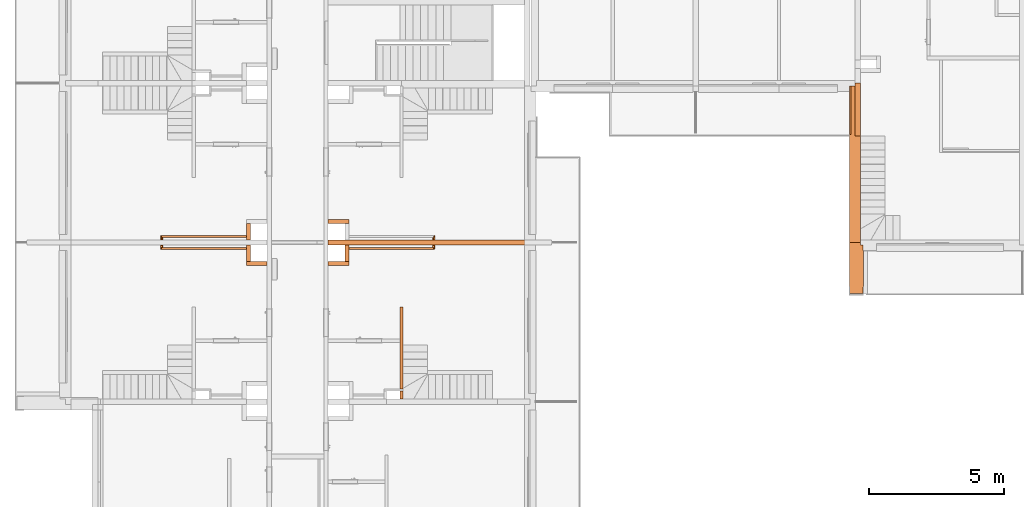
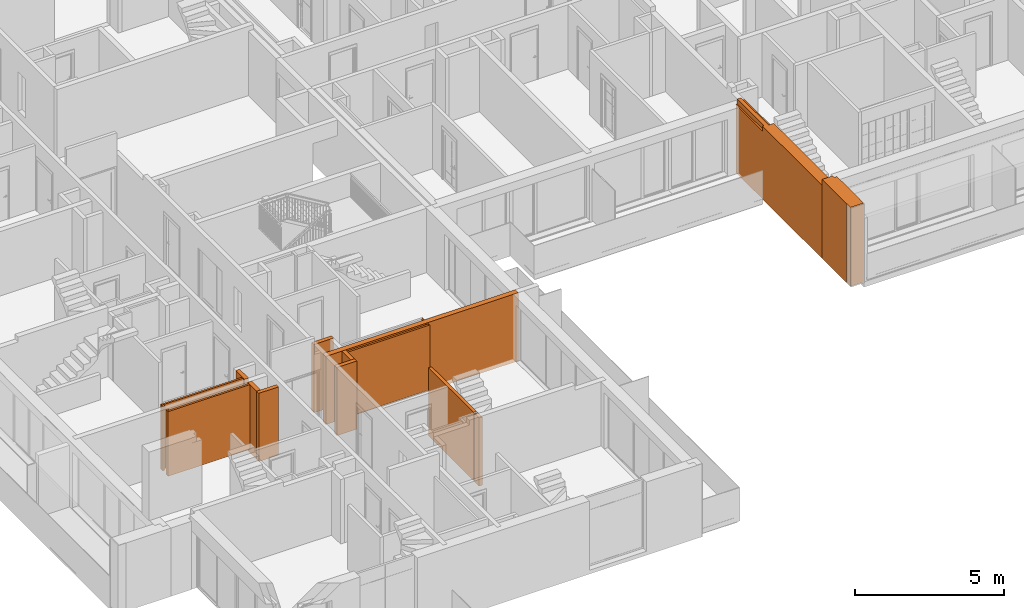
# One storey, part 46 of 61: 17 proxies, 1 opening.
"""IFC2X3 building model written with IfcOpenShell, lengths in millimetres."""

from ifc_helpers import new_model, entity, si_unit, converted_unit, derived_unit, money_unit, direction, frame, origin_with_axes, origin_2d_with_axis, place, context, subcontext, project, spatial, rectangle, extrude, faceted_brep, material, material_list, type_object, element, save


model = new_model("IFC2X3")

# Units and contexts
model_context = context("Model", 3, precision=0.01, world=origin_with_axes(), true_north=direction((0.34421633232, 0.938890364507)))
body_context = subcontext(model_context, "Body", "Model", "MODEL_VIEW")
ifc_project = project(units=[si_unit("LENGTHUNIT", "METRE", prefix="MILLI"), si_unit("AREAUNIT", "SQUARE_METRE"), si_unit("VOLUMEUNIT", "CUBIC_METRE"), converted_unit("PLANEANGLEUNIT", "DEGREE", entity("IfcPlaneAngleMeasure", 0.0174532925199), si_unit("PLANEANGLEUNIT", "RADIAN"), dimensions=[0, 0, 0, 0, 0, 0, 0]), si_unit("SOLIDANGLEUNIT", "STERADIAN"), money_unit("USD"), converted_unit("TIMEUNIT", "Year", entity("IfcTimeMeasure", 31556926.0), si_unit("TIMEUNIT", "SECOND"), dimensions=[0, 0, 1, 0, 0, 0, 0]), si_unit("MASSUNIT", "GRAM", prefix="KILO"), si_unit("THERMODYNAMICTEMPERATUREUNIT", "DEGREE_CELSIUS"), si_unit("LUMINOUSINTENSITYUNIT", "LUMEN"), si_unit("ENERGYUNIT", "JOULE", prefix="MEGA"), derived_unit("THERMALCONDUCTANCEUNIT", [(si_unit("POWERUNIT", "WATT"), 1), (si_unit("LENGTHUNIT", "METRE"), -1), (si_unit("THERMODYNAMICTEMPERATUREUNIT", "KELVIN"), -1)]), derived_unit("SPECIFICHEATCAPACITYUNIT", [(si_unit("ENERGYUNIT", "JOULE"), 1), (si_unit("MASSUNIT", "GRAM", prefix="KILO"), -1), (si_unit("THERMODYNAMICTEMPERATUREUNIT", "KELVIN"), -1)]), derived_unit("MASSDENSITYUNIT", [(si_unit("MASSUNIT", "GRAM", prefix="KILO"), 1), (si_unit("VOLUMEUNIT", "CUBIC_METRE"), -1)])], contexts=[model_context])

# Site, building, storey
site_placement = place(None, origin_with_axes())
site = spatial("IfcSite", under=ifc_project, at=site_placement, Name="USTRONIE MORSKIE", CompositionType="ELEMENT")
building_placement = place(site_placement, origin_with_axes())
building = spatial("IfcBuilding", under=site, at=building_placement, Name="Budynek", CompositionType="ELEMENT")
storey_placement = place(building_placement, frame((0.0, 0.0, 13000.0), z_axis=(0.0, 0.0, 1.0), x_axis=(1.0, 0.0, 0.0)))
storey = spatial("IfcBuildingStorey", under=building, at=storey_placement, Name="PIĘTRO 4", CompositionType="ELEMENT", Elevation=13000.0)

# Proxies
ifc_material_1 = material(Name="Bloczki silikatowe")
building_element_proxy_type_1 = type_object("IfcBuildingElementProxyType", Name="Bloczki silikatowe 120", PredefinedType="NOTDEFINED")
proxy_1_placement = place(storey_placement, frame((362417.920919, 715101.199036, -160.0), z_axis=(0.0, 0.0, 1.0), x_axis=(0.0, 1.0, 0.0)))
element("IfcBuildingElementProxy", 1, at=proxy_1_placement, inside=storey, type_object=building_element_proxy_type_1, material=ifc_material_1, Name="SW-04", context=body_context, shape_type="Brep", body=[
    faceted_brep([(400.000444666, -60.0, 2800.0), (400.000444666, 60.0, 2800.0), (100.0, 60.0, 2800.0), (100.0, -60.0, 2800.0), (400.000444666, -60.0, 0.0), (400.000444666, 60.0, 0.0), (100.0, 60.0, 0.0), (100.0, -60.0, 0.0)], [[[0, 1, 2, 3]], [[1, 0, 4, 5]], [[1, 5, 6, 2]], [[7, 3, 2, 6]], [[4, 0, 3, 7]], [[5, 4, 7, 6]]]),
    faceted_brep([(480.000444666, -60.0, 2800.0), (3499.99837346, -60.0, 2800.0), (3499.99837346, 60.0, 2800.0), (480.000444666, 60.0, 2800.0), (480.000444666, -60.0, 0.0), (3499.99837346, -60.0, 0.0), (3499.99837346, 60.0, 0.0), (480.000444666, 60.0, 0.0)], [[[0, 1, 2, 3]], [[4, 5, 1, 0]], [[2, 1, 5, 6]], [[3, 2, 6, 7]], [[4, 0, 3, 7]], [[7, 6, 5, 4]]]),
])
ifc_material_2 = material(Name="Beton konstrukcyjny B25")
ifc_material_3 = material(Name="Wełna ELEW")
ifc_material_4 = material(Name="Tynk zewnętrzny")
ifc_material_list_1 = material_list([ifc_material_2, ifc_material_3, ifc_material_4])
building_element_proxy_type_2 = type_object("IfcBuildingElementProxyType", Name="20+20 410", PredefinedType="NOTDEFINED")
proxy_2_placement = place(storey_placement, frame((379317.920919, 726901.199036, -160.0), z_axis=(0.0, 0.0, 1.0), x_axis=(0.0, -1.0, 0.0)))
element("IfcBuildingElementProxy", 2, at=proxy_2_placement, inside=storey, type_object=building_element_proxy_type_2, material=ifc_material_list_1, Name="SZ-01", context=body_context, shape_type="Brep", body=[
    faceted_brep([(0.0, -100.0000184, 2800.0), (0.0, 100.0, 2800.0), (0.0, 100.0, 0.0), (0.0, -100.0, 0.0), (1949.98304594, 100.0, 2800.0), (1949.98304594, -100.000083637, 2800.0), (1949.98304594, 100.0, 3000.0), (5900.0, 100.0, 3000.0), (5900.0, 100.0, 0.0), (5900.0, -100.0, 0.0), (5900.0, -100.0, 3000.0), (1949.98304594, -100.000083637, 3000.0)], [[[0, 1, 2, 3]], [[4, 1, 0, 5]], [[4, 6, 7, 8, 2, 1]], [[9, 3, 2, 8]], [[5, 0, 3, 9, 10, 11]], [[11, 6, 4, 5]], [[6, 11, 10, 7]], [[8, 7, 10, 9]]]),
    faceted_brep([(100.0, -300.0, 2800.00000171), (100.0, -249.999904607, 2800.00000171), (100.0, -249.999904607, 3000.00000171), (100.0, -100.0, 3000.0), (100.0, -100.0, 0.0), (100.0, -300.0, 0.0), (1900.00067055, -300.0, 2800.00000171), (1900.00067055, -250.000165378, 2800.00000171), (1900.00067055, -250.000165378, 3000.00000171), (1900.00067055, -300.0, 3000.00000171), (5900.0, -300.0, 3000.0), (5900.0, -100.0, 3000.0), (5900.0, -100.0, 0.0), (300.0, -299.758252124, 0.0), (300.0, -300.0, 0.0), (5900.0, -300.0, 0.0), (567.123743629, -300.0, 0.0), (300.0, -300.0, 110.0), (567.123743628, -300.0, 110.0), (300.0, -299.758252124, 110.0)], [[[0, 1, 2, 3, 4, 5]], [[1, 0, 6, 7]], [[8, 2, 1, 7]], [[8, 9, 10, 11, 3, 2]], [[4, 3, 11, 12]], [[13, 14, 5, 4, 12, 15, 16]], [[6, 0, 5, 14, 17, 18, 16, 15, 10, 9]], [[9, 8, 7, 6]], [[12, 11, 10, 15]], [[13, 19, 17, 14]], [[16, 18, 19, 13]], [[18, 17, 19]]]),
    faceted_brep([(300.0, -310.0, 2800.00000171), (300.0, -300.0, 2800.00000171), (300.0, -300.0, 110.0), (300.0, -310.0, 110.0), (1900.00067055, -300.0, 2800.00000171), (1900.00067055, -310.0, 2800.00000171), (1900.00067055, -300.0, 3000.00000171), (5900.0, -300.0, 3000.0), (5900.0, -300.0, 0.0), (567.123743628, -300.0, 0.0), (567.123743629, -300.0, 110.0), (1900.00067759, -301.206258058, 110.0), (1900.00067759, -310.0, 110.0), (1900.00067759, -310.0, 0.0), (5900.0, -310.0, 0.0), (5900.0, -310.0, 3000.0), (1900.00067055, -310.0, 3000.00000171), (1900.00067759, -301.206258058, 0.0)], [[[0, 1, 2, 3]], [[4, 1, 0, 5]], [[4, 6, 7, 8, 9, 10, 2, 1]], [[3, 2, 10, 11, 12]], [[5, 0, 3, 12, 13, 14, 15, 16]], [[16, 6, 4, 5]], [[6, 16, 15, 7]], [[8, 7, 15, 14]], [[17, 9, 8, 14, 13]], [[11, 10, 9, 17]], [[12, 11, 17, 13]]]),
])
ifc_material_5 = material(Name="Płyta GK")
ifc_material_6 = material(Name="-Pustka powietrzna")
ifc_material_list_2 = material_list([ifc_material_5, ifc_material_5, ifc_material_6])
building_element_proxy_type_3 = type_object("IfcBuildingElementProxyType", Name="330-SD GK 2-warstwy 75", PredefinedType="NOTDEFINED")
proxy_3_placement = place(storey_placement, frame((353517.920919, 721001.20928, -180.0), z_axis=(0.0, 0.0, 1.0), x_axis=(0.0, 1.0, 0.0)))
element("IfcBuildingElementProxy", 3, at=proxy_3_placement, inside=storey, type_object=building_element_proxy_type_3, material=ifc_material_list_2, Name="Ściana-009", context=body_context, shape_type="Brep", body=[
    faceted_brep([(99.9897562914, 12.5, 165.0), (242.489756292, 12.5, 165.0), (242.489756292, 12.5, 2820.0), (99.9897562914, 12.5, 2819.99999891), (242.489756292, 25.0, 165.0), (99.9897562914, 25.0, 165.0), (242.489756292, 25.0, 2820.0), (99.9897562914, 25.0, 2819.99999891)], [[[0, 1, 2, 3]], [[4, 1, 0, 5]], [[1, 4, 6, 2]], [[6, 7, 3, 2]], [[5, 0, 3, 7]], [[4, 5, 7, 6]]]),
    faceted_brep([(99.9897562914, 0.0, 165.0), (229.989756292, 0.0, 165.0), (229.989756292, 0.0, 2820.0), (99.9897562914, 0.0, 2819.99999892), (229.989756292, 12.5, 165.0), (99.9897562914, 12.5, 165.0), (229.989756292, 12.5, 2820.0), (99.9897562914, 12.5, 2819.99999891)], [[[0, 1, 2, 3]], [[4, 1, 0, 5]], [[1, 4, 6, 2]], [[6, 7, 3, 2]], [[5, 0, 3, 7]], [[4, 5, 7, 6]]]),
    faceted_brep([(99.9897562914, -50.0, 180.0), (179.989756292, -50.0, 180.0), (179.989756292, -50.0, 2820.0), (99.9897562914, -50.0, 2819.99999893), (179.989756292, 0.0, 180.0), (99.9897562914, 0.0, 180.0), (179.989756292, 0.0, 2820.0), (99.9897562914, 0.0, 2819.99999892)], [[[0, 1, 2, 3]], [[4, 1, 0, 5]], [[1, 4, 6, 2]], [[6, 7, 3, 2]], [[5, 0, 3, 7]], [[4, 5, 7, 6]]]),
])
proxy_4_placement = place(storey_placement, frame((356817.920919, 720771.199036, -180.0), z_axis=(0.0, 0.0, 1.0), x_axis=(-1.0, 0.0, 0.0)))
element("IfcBuildingElementProxy", 4, at=proxy_4_placement, inside=storey, type_object=building_element_proxy_type_3, material=ifc_material_list_2, Name="Ściana-009", context=body_context, shape_type="Brep", body=[
    faceted_brep([(150.0, 25.0, 165.0), (150.0, 12.5, 165.0), (150.0, 12.5, 2820.0), (150.0, 25.0, 2820.0), (3325.0, 12.5, 165.0), (3325.0, 25.0, 165.0), (3325.0, 12.5, 2820.0), (3325.0, 25.0, 2820.0)], [[[0, 1, 2, 3]], [[4, 1, 0, 5]], [[1, 4, 6, 2]], [[7, 3, 2, 6]], [[5, 0, 3, 7]], [[4, 5, 7, 6]]]),
    faceted_brep([(150.0, 12.5, 165.0), (150.0, 0.0, 165.0), (150.0, 0.0, 2820.0), (150.0, 12.5, 2820.0), (3312.5, 0.0, 165.0), (3312.5, 12.5, 165.0), (3312.5, 0.0, 2820.0), (3312.5, 12.5, 2820.0)], [[[0, 1, 2, 3]], [[4, 1, 0, 5]], [[1, 4, 6, 2]], [[7, 3, 2, 6]], [[5, 0, 3, 7]], [[4, 5, 7, 6]]]),
    faceted_brep([(150.0, 0.0, 180.0), (150.0, -50.0, 180.0), (150.0, -50.0, 2820.0), (150.0, 0.0, 2820.0), (3300.0, -50.0, 180.0), (3300.0, 0.0, 180.0), (3300.0, -50.0, 2820.0), (3300.0, 0.0, 2820.0)], [[[0, 1, 2, 3]], [[4, 1, 0, 5]], [[1, 4, 6, 2]], [[7, 3, 2, 6]], [[5, 0, 3, 7]], [[4, 5, 7, 6]]]),
])
ifc_material_list_3 = material_list([ifc_material_6, ifc_material_5, ifc_material_5])
proxy_5_placement = place(storey_placement, frame((353517.920919, 721001.20928, -180.0), z_axis=(0.0, 0.0, 1.0), x_axis=(0.0, -1.0, 0.0)))
element("IfcBuildingElementProxy", 5, at=proxy_5_placement, inside=storey, type_object=building_element_proxy_type_3, material=ifc_material_list_3, Name="Ściana-009", context=body_context, shape_type="Brep", body=[
    faceted_brep([(180.010243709, 50.0, 180.0), (100.010243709, 50.0, 180.0), (100.010243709, 50.0, 2819.99999893), (180.010243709, 50.0, 2820.0), (100.010243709, 0.0, 180.0), (180.010243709, 0.0, 180.0), (100.010243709, 0.0, 2819.99999892), (180.010243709, 0.0, 2820.0)], [[[0, 1, 2, 3]], [[4, 1, 0, 5]], [[1, 4, 6, 2]], [[3, 2, 6, 7]], [[5, 0, 3, 7]], [[4, 5, 7, 6]]]),
    faceted_brep([(230.010243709, 0.0, 165.0), (100.010243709, 0.0, 165.0), (100.010243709, 0.0, 2819.99999892), (230.010243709, 0.0, 2820.0), (100.010243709, -12.5, 165.0), (230.010243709, -12.5, 165.0), (100.010243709, -12.5, 2819.99999891), (230.010243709, -12.5, 2820.0)], [[[0, 1, 2, 3]], [[4, 1, 0, 5]], [[1, 4, 6, 2]], [[3, 2, 6, 7]], [[5, 0, 3, 7]], [[4, 5, 7, 6]]]),
    faceted_brep([(242.510243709, -12.5, 165.0), (100.010243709, -12.5, 165.0), (100.010243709, -12.5, 2819.99999891), (242.510243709, -12.5, 2820.0), (100.010243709, -25.0, 165.0), (242.510243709, -25.0, 165.0), (100.010243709, -25.0, 2819.99999891), (242.510243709, -25.0, 2820.0)], [[[0, 1, 2, 3]], [[4, 1, 0, 5]], [[1, 4, 6, 2]], [[3, 2, 6, 7]], [[5, 0, 3, 7]], [[4, 5, 7, 6]]]),
])
proxy_6_placement = place(storey_placement, frame((356817.920919, 721231.199036, -180.0), z_axis=(0.0, 0.0, 1.0), x_axis=(-1.0, 0.0, 0.0)))
element("IfcBuildingElementProxy", 6, at=proxy_6_placement, inside=storey, type_object=building_element_proxy_type_3, material=ifc_material_list_3, Name="Ściana-009", context=body_context, shape_type="Brep", body=[
    faceted_brep([(150.0, 50.0, 180.0), (150.0, 0.0, 180.0), (150.0, 0.0, 2820.0), (150.0, 50.0, 2820.0), (3300.0, 0.0, 180.0), (3300.0, 50.0, 180.0), (3300.0, 0.0, 2820.0), (3300.0, 50.0, 2820.0)], [[[0, 1, 2, 3]], [[4, 1, 0, 5]], [[1, 4, 6, 2]], [[7, 3, 2, 6]], [[5, 0, 3, 7]], [[4, 5, 7, 6]]]),
    faceted_brep([(150.0, 0.0, 165.0), (150.0, -12.5, 165.0), (150.0, -12.5, 2820.0), (150.0, 0.0, 2820.0), (3312.5, -12.5, 165.0), (3312.5, 0.0, 165.0), (3312.5, -12.5, 2820.0), (3312.5, 0.0, 2820.0)], [[[0, 1, 2, 3]], [[4, 1, 0, 5]], [[1, 4, 6, 2]], [[7, 3, 2, 6]], [[5, 0, 3, 7]], [[4, 5, 7, 6]]]),
    faceted_brep([(150.0, -12.5, 165.0), (150.0, -25.0, 165.0), (150.0, -25.0, 2820.0), (150.0, -12.5, 2820.0), (3325.0, -25.0, 165.0), (3325.0, -12.5, 165.0), (3325.0, -25.0, 2820.0), (3325.0, -12.5, 2820.0)], [[[0, 1, 2, 3]], [[4, 1, 0, 5]], [[1, 4, 6, 2]], [[7, 3, 2, 6]], [[5, 0, 3, 7]], [[4, 5, 7, 6]]]),
])
proxy_7_placement = place(storey_placement, frame((360317.920919, 720771.199036, -180.0), z_axis=(0.0, 0.0, 1.0), x_axis=(1.0, 0.0, 0.0)))
element("IfcBuildingElementProxy", 7, at=proxy_7_placement, inside=storey, type_object=building_element_proxy_type_3, material=ifc_material_list_3, Name="Ściana-009", context=body_context, shape_type="Brep", body=[
    faceted_brep([(3300.0, 0.0, 180.0), (3300.0, 50.0, 180.0), (3300.0, 50.0, 2820.0), (3300.0, 0.0, 2820.0), (150.0, 50.0, 180.0), (150.0, 0.0, 180.0), (150.0, 50.0, 2820.0), (150.0, 0.0, 2820.0)], [[[0, 1, 2, 3]], [[4, 1, 0, 5]], [[1, 4, 6, 2]], [[2, 6, 7, 3]], [[5, 0, 3, 7]], [[4, 5, 7, 6]]]),
    faceted_brep([(3312.5, -12.5, 165.0), (3312.5, 0.0, 165.0), (3312.5, 0.0, 2820.0), (3312.5, -12.5, 2820.0), (150.0, 0.0, 165.0), (150.0, -12.5, 165.0), (150.0, 0.0, 2820.0), (150.0, -12.5, 2820.0)], [[[0, 1, 2, 3]], [[4, 1, 0, 5]], [[1, 4, 6, 2]], [[2, 6, 7, 3]], [[5, 0, 3, 7]], [[4, 5, 7, 6]]]),
    faceted_brep([(3325.0, -25.0, 165.0), (3325.0, -12.5, 165.0), (3325.0, -12.5, 2820.0), (3325.0, -25.0, 2820.0), (150.0, -12.5, 165.0), (150.0, -25.0, 165.0), (150.0, -12.5, 2820.0), (150.0, -25.0, 2820.0)], [[[0, 1, 2, 3]], [[4, 1, 0, 5]], [[1, 4, 6, 2]], [[2, 6, 7, 3]], [[5, 0, 3, 7]], [[4, 5, 7, 6]]]),
])
proxy_8_placement = place(storey_placement, frame((363617.920919, 721001.221157, -180.0), z_axis=(0.0, 0.0, 1.0), x_axis=(0.0, -1.0, 0.0)))
element("IfcBuildingElementProxy", 8, at=proxy_8_placement, inside=storey, type_object=building_element_proxy_type_3, material=ifc_material_list_2, Name="Ściana-009", context=body_context, shape_type="Brep", body=[
    faceted_brep([(242.522120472, 25.0, 165.0), (100.0, 25.0, 165.0), (100.0, 25.0, 2820.0), (242.522120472, 25.0, 2820.0), (100.0, 12.5, 165.0), (242.522120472, 12.5, 165.0), (100.0, 12.5, 2820.0), (242.522120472, 12.5, 2820.0)], [[[0, 1, 2, 3]], [[4, 1, 0, 5]], [[1, 4, 6, 2]], [[3, 2, 6, 7]], [[5, 0, 3, 7]], [[4, 5, 7, 6]]]),
    faceted_brep([(230.022120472, 12.5, 165.0), (100.0, 12.5, 165.0), (100.0, 12.5, 2820.0), (230.022120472, 12.5, 2820.0), (100.0, 0.0, 165.0), (230.022120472, 0.0, 165.0), (100.0, 0.0, 2820.0), (230.022120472, 0.0, 2820.0)], [[[0, 1, 2, 3]], [[4, 1, 0, 5]], [[1, 4, 6, 2]], [[3, 2, 6, 7]], [[5, 0, 3, 7]], [[4, 5, 7, 6]]]),
    faceted_brep([(180.022120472, 0.0, 180.0), (100.0, 0.0, 180.0), (100.0, 0.0, 2820.0), (180.022120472, 0.0, 2820.0), (100.0, -50.0, 180.0), (180.022120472, -50.0, 180.0), (100.0, -50.0, 2820.0), (180.022120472, -50.0, 2820.0)], [[[0, 1, 2, 3]], [[4, 1, 0, 5]], [[1, 4, 6, 2]], [[3, 2, 6, 7]], [[5, 0, 3, 7]], [[4, 5, 7, 6]]]),
])
proxy_9_placement = place(storey_placement, frame((363617.920919, 721001.221157, -180.0), z_axis=(0.0, 0.0, 1.0), x_axis=(0.0, 1.0, 0.0)))
element("IfcBuildingElementProxy", 9, at=proxy_9_placement, inside=storey, type_object=building_element_proxy_type_3, material=ifc_material_list_3, Name="Ściana-009", context=body_context, shape_type="Brep", body=[
    faceted_brep([(100.0, 0.0, 180.0), (179.977879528, 0.0, 180.0), (179.977879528, 0.0, 2820.0), (100.0, 0.0, 2820.0), (179.977879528, 50.0, 180.0), (100.0, 50.0, 180.0), (179.977879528, 50.0, 2820.0), (100.0, 50.0, 2820.0)], [[[0, 1, 2, 3]], [[4, 1, 0, 5]], [[1, 4, 6, 2]], [[6, 7, 3, 2]], [[5, 0, 3, 7]], [[4, 5, 7, 6]]]),
    faceted_brep([(100.0, -12.5, 165.0), (229.977879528, -12.5, 165.0), (229.977879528, -12.5, 2820.0), (100.0, -12.5, 2820.0), (229.977879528, 0.0, 165.0), (100.0, 0.0, 165.0), (229.977879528, 0.0, 2820.0), (100.0, 0.0, 2820.0)], [[[0, 1, 2, 3]], [[4, 1, 0, 5]], [[1, 4, 6, 2]], [[6, 7, 3, 2]], [[5, 0, 3, 7]], [[4, 5, 7, 6]]]),
    faceted_brep([(100.0, -25.0, 165.0), (242.477879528, -25.0, 165.0), (242.477879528, -25.0, 2820.0), (100.0, -25.0, 2820.0), (242.477879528, -12.5, 165.0), (100.0, -12.5, 165.0), (242.477879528, -12.5, 2820.0), (100.0, -12.5, 2820.0)], [[[0, 1, 2, 3]], [[4, 1, 0, 5]], [[1, 4, 6, 2]], [[6, 7, 3, 2]], [[5, 0, 3, 7]], [[4, 5, 7, 6]]]),
])
building_element_proxy_type_4 = type_object("IfcBuildingElementProxyType", Name="Bloczki silikatowe 150", PredefinedType="NOTDEFINED")
proxy_10_placement = place(storey_placement, frame((356817.920919, 721001.221157, -160.0), z_axis=(0.0, 0.0, 1.0), x_axis=(0.0, 1.0, 0.0)))
element("IfcBuildingElementProxy", 10, at=proxy_10_placement, inside=storey, type_object=building_element_proxy_type_4, material=ifc_material_1, Name="SW-03", context=body_context, shape_type="Brep", body=[
    faceted_brep([(699.977879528, 150.0, 2800.0), (99.977879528, 150.0, 2799.99999975), (99.977879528, 0.0, 2799.99999979), (699.977879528, 0.0, 2800.0), (699.977879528, 150.0, 0.0), (99.977879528, 150.0, 0.0), (99.977879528, 0.0, 0.0), (699.977879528, 0.0, 0.0)], [[[0, 1, 2, 3]], [[4, 5, 1, 0]], [[5, 6, 2, 1]], [[3, 2, 6, 7]], [[0, 3, 7, 4]], [[7, 6, 5, 4]]]),
])
proxy_11_placement = place(storey_placement, frame((356817.920919, 721001.221157, -160.0), z_axis=(0.0, 0.0, 1.0), x_axis=(0.0, -1.0, 0.0)))
element("IfcBuildingElementProxy", 11, at=proxy_11_placement, inside=storey, type_object=building_element_proxy_type_4, material=ifc_material_1, Name="SW-03", context=body_context, shape_type="Brep", body=[
    faceted_brep([(699.977879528, -150.0, 2800.0), (699.977879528, 0.0, 2800.0), (100.002078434, 0.0, 2800.0), (100.002523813, -150.0, 2800.0), (699.977879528, -150.0, 0.0), (699.977879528, 0.0, 0.0), (100.002078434, 0.0, 0.0), (100.002523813, -150.0, 0.0)], [[[0, 1, 2, 3]], [[1, 0, 4, 5]], [[1, 5, 6, 2]], [[7, 3, 2, 6]], [[4, 0, 3, 7]], [[5, 4, 7, 6]]]),
])
proxy_12_placement = place(storey_placement, frame((356817.920919, 720301.243277, -160.0), z_axis=(0.0, 0.0, 1.0), x_axis=(1.0, 0.0, 0.0)))
element("IfcBuildingElementProxy", 12, at=proxy_12_placement, inside=storey, type_object=building_element_proxy_type_4, material=ifc_material_1, Name="SW-03", context=body_context, shape_type="Brep", body=[
    faceted_brep([(620.0, -150.0, 2800.0), (620.0, 0.0, 2800.0), (-150.0, 0.0, 2800.0), (-150.0, -150.0, 2800.0), (620.0, -150.0, 0.0), (620.0, 0.0, 0.0), (-150.0, 0.0, 0.0), (-150.0, -150.0, 0.0)], [[[0, 1, 2, 3]], [[1, 0, 4, 5]], [[1, 5, 6, 2]], [[7, 3, 2, 6]], [[4, 0, 3, 7]], [[5, 4, 7, 6]]]),
])
proxy_13_placement = place(storey_placement, frame((360317.920919, 720301.243277, -160.0), z_axis=(0.0, 0.0, 1.0), x_axis=(-1.0, 0.0, 0.0)))
element("IfcBuildingElementProxy", 13, at=proxy_13_placement, inside=storey, type_object=building_element_proxy_type_4, material=ifc_material_1, Name="SW-03", context=body_context, shape_type="Brep", body=[
    faceted_brep([(620.0, 150.0, 0.0), (620.0, 0.0, 0.0), (-150.0, 0.0, 0.0), (-150.0, 150.0, 0.0), (620.0, 150.0, 2800.0), (620.0, 0.0, 2800.0), (-150.0, 0.0, 2800.0), (-150.0, 150.0, 2800.0)], [[[0, 1, 2, 3]], [[1, 0, 4, 5]], [[1, 5, 6, 2]], [[7, 3, 2, 6]], [[4, 0, 3, 7]], [[5, 4, 7, 6]]]),
])
proxy_14_placement = place(storey_placement, frame((360317.920919, 721701.199036, -160.0), z_axis=(0.0, 0.0, 1.0), x_axis=(-1.0, 0.0, 0.0)))
element("IfcBuildingElementProxy", 14, at=proxy_14_placement, inside=storey, type_object=building_element_proxy_type_4, material=ifc_material_1, Name="SW-03", context=body_context, shape_type="Brep", body=[
    faceted_brep([(620.0, -150.0, 2800.0), (620.0, 0.0, 2800.0), (-150.0, 0.0, 2800.0), (-150.0, -150.0, 2800.0), (620.0, -150.0, 0.0), (620.0, 0.0, 0.0), (-150.0, 0.0, 0.0), (-150.0, -150.0, 0.0)], [[[0, 1, 2, 3]], [[1, 0, 4, 5]], [[1, 5, 6, 2]], [[7, 3, 2, 6]], [[4, 0, 3, 7]], [[5, 4, 7, 6]]]),
])
proxy_15_placement = place(storey_placement, frame((360317.920919, 721001.221157, -160.0), z_axis=(0.0, 0.0, 1.0), x_axis=(0.0, -1.0, 0.0)))
element("IfcBuildingElementProxy", 15, at=proxy_15_placement, inside=storey, type_object=building_element_proxy_type_4, material=ifc_material_1, Name="SW-03", context=body_context, shape_type="Brep", body=[
    faceted_brep([(699.977879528, 150.0, 0.0), (699.977879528, 0.0, 0.0), (100.0, 0.0, 0.0), (100.0, 150.0, 0.0), (699.977879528, 150.0, 2800.0), (699.977879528, 0.0, 2800.0), (100.0, 0.0, 2800.0), (100.0, 150.0, 2800.0)], [[[0, 1, 2, 3]], [[1, 0, 4, 5]], [[1, 5, 6, 2]], [[7, 3, 2, 6]], [[4, 0, 3, 7]], [[5, 4, 7, 6]]]),
])
building_element_proxy_type_5 = type_object("IfcBuildingElementProxyType", Name="Beton konstrukcyjny B25 200", PredefinedType="NOTDEFINED")
proxy_16_placement = place(storey_placement, frame((359617.920919, 721001.221157, -160.0), z_axis=(0.0, 0.0, 1.0), x_axis=(1.0, 0.0, 0.0)))
element("IfcBuildingElementProxy", 16, at=proxy_16_placement, inside=storey, type_object=building_element_proxy_type_5, material=ifc_material_2, Name="SW-01", context=body_context, shape_type="Brep", body=[
    faceted_brep([(80.0, 100.0, 0.0), (7550.01181595, 100.0, 0.0), (7550.01222899, -100.0, 0.0), (80.0, -100.0, 0.0), (80.0, 100.0, 2800.0), (7550.01181595, 100.0, 2800.0), (7550.01222899, -100.0, 2800.0), (80.0, -100.0, 2800.0)], [[[0, 1, 2, 3]], [[4, 5, 1, 0]], [[6, 2, 1, 5]], [[3, 2, 6, 7]], [[7, 4, 0, 3]], [[7, 6, 5, 4]]]),
])

# Proxy, opening
ifc_material_list_4 = material_list([ifc_material_4, ifc_material_3, ifc_material_2, ifc_material_3, ifc_material_4])
building_element_proxy_type_6 = type_object("IfcBuildingElementProxyType", Name="BALKON bok 01 520", PredefinedType="NOTDEFINED")
proxy_17_placement = place(storey_placement, frame((379317.920919, 721001.199036, -160.0), z_axis=(0.0, 0.0, 1.0), x_axis=(0.0, -1.0, 0.0)))
proxy_17 = element("IfcBuildingElementProxy", 17, at=proxy_17_placement, inside=storey, type_object=building_element_proxy_type_6, material=ifc_material_list_4, Name="Œciana-006", context=body_context, shape_type="Brep", body=[
    faceted_brep([(1949.99981809, 210.0, 0.0), (300.0, 210.0, 0.0), (300.0, 210.0, 3239.99999792), (1949.99981809, 210.0, 3239.99999792), (1949.99981809, 200.0, 0.0), (300.0, 200.0, 0.0), (300.0, 200.0, 3239.99999792), (1949.99981809, 200.0, 3239.99999792)], [[[0, 1, 2, 3]], [[4, 5, 1, 0]], [[6, 2, 1, 5]], [[3, 2, 6, 7]], [[3, 7, 4, 0]], [[6, 5, 4, 7]]]),
    faceted_brep([(100.0, 200.0, 0.0), (100.0, 200.0, 3239.99999793), (1949.99981809, 200.0, 3239.99999792), (1949.99981809, 200.0, 0.0), (100.0, 100.0, 0.0), (100.0, 100.0, 3239.99999792), (1949.99981809, 100.0, 3239.99999792), (1949.99981809, 100.0, 0.0)], [[[0, 1, 2, 3]], [[1, 0, 4, 5]], [[1, 5, 6, 2]], [[6, 7, 3, 2]], [[4, 0, 3, 7]], [[4, 7, 6, 5]]]),
    faceted_brep([(0.0, -100.0, 0.0), (0.0, 100.0, 0.0), (1949.99981809, 100.0, 0.0), (1949.99981809, -100.0, 0.0), (0.0, -100.0, 3239.99999792), (0.0, 100.0, 3239.99999792), (1949.99981809, 100.0, 3239.99999792), (1949.99981809, -100.0, 3239.99999792)], [[[0, 1, 2, 3]], [[4, 5, 1, 0]], [[1, 5, 6, 2]], [[7, 3, 2, 6]], [[4, 0, 3, 7]], [[5, 4, 7, 6]]]),
    faceted_brep([(0.0, -300.0, 0.0), (0.0, -100.0, 0.0), (1949.99981809, -100.0, 0.0), (1949.99981809, -300.0, 0.0), (0.0, -300.0, 3239.99999792), (0.0, -100.0, 3239.99999792), (1949.99981809, -100.0, 3239.99999792), (1949.99981809, -300.0, 3239.99999792)], [[[0, 1, 2, 3]], [[4, 5, 1, 0]], [[1, 5, 6, 2]], [[7, 3, 2, 6]], [[4, 0, 3, 7]], [[5, 4, 7, 6]]]),
    faceted_brep([(0.0, -310.0, 0.0), (0.0, -300.0, 0.0), (1949.99981809, -300.0, 0.0), (1949.99981809, -310.0, 0.0), (0.0, -310.0, 3239.99999792), (0.0, -300.0, 3239.99999792), (1949.99981809, -300.0, 3239.99999792), (1949.99981809, -310.0, 3239.99999792)], [[[0, 1, 2, 3]], [[4, 5, 1, 0]], [[1, 5, 6, 2]], [[7, 3, 2, 6]], [[4, 0, 3, 7]], [[5, 4, 7, 6]]]),
])
opening_placement = place(proxy_17_placement, frame((1949.99981809, 0.0, 0.0), z_axis=(0.0, 0.0, 1.0), x_axis=(1.0, 0.0, 0.0)))
element("IfcOpeningElement", 18, at=opening_placement, cuts=proxy_17, Name="ZS1", context=body_context, shape_type="SweptSolid", body=[
    extrude(rectangle(XDim=9.99999999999, YDim=50.0000000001, at=origin_2d_with_axis()), frame((-25.0, 205.0, 0.0), z_axis=(0.0, 0.0, 1.0), x_axis=(0.0, -1.0, 0.0)), (0.0, 0.0, 1.0), 3239.99999792),
    extrude(rectangle(XDim=9.99999999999, YDim=250.0, at=origin_2d_with_axis()), frame((-175.0, 205.0, 0.0), z_axis=(0.0, 0.0, 1.0), x_axis=(0.0, -1.0, 0.0)), (0.0, 0.0, 1.0), 3239.99999792),
    extrude(rectangle(XDim=9.99999999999, YDim=50.0000000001, at=origin_2d_with_axis()), frame((-25.0000000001, -305.0, 0.0), z_axis=(0.0, 0.0, 1.0), x_axis=(0.0, -1.0, 0.0)), (0.0, 0.0, 1.0), 3239.99999792),
    extrude(rectangle(XDim=9.99999999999, YDim=250.0, at=origin_2d_with_axis()), frame((-175.0, -305.0, 0.0), z_axis=(0.0, 0.0, 1.0), x_axis=(0.0, -1.0, 0.0)), (0.0, 0.0, 1.0), 3239.99999792),
    extrude(rectangle(XDim=500.0, YDim=50.0000000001, at=origin_2d_with_axis()), frame((-25.0000000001, -50.0, 0.0), z_axis=(0.0, 0.0, 1.0), x_axis=(0.0, -1.0, 0.0)), (0.0, 0.0, 1.0), 3239.99999792),
])

save(model, "model.ifc")
